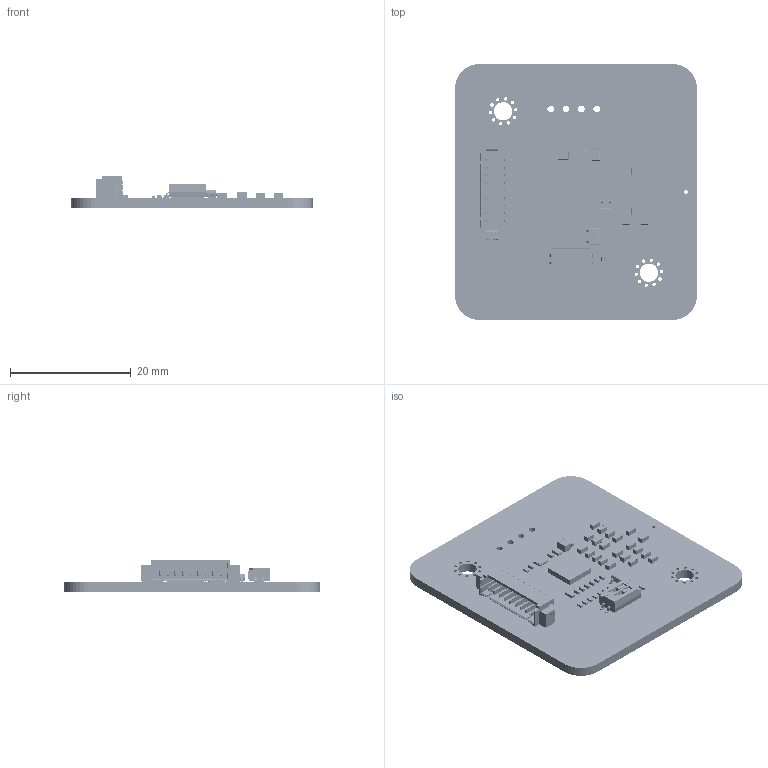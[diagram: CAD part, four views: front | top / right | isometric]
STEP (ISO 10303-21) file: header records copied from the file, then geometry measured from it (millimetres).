
FILE_DESCRIPTION(('Designed by EasyEDA Pro'),'2;1');
FILE_NAME('Open CASCADE Shape Model','2025-12-28T17:03:29',('Author'),( 'Open CASCADE'),'Open CASCADE STEP processor 7.8','Open CASCADE 7.8' ,'Unknown');
FILE_SCHEMA(('AUTOMOTIVE_DESIGN { 1 0 10303 214 1 1 1 1 }'));
Length unit declared in the file: millimetre
Products named in the file (66): EasyEDA PCB Model~bnXr; Board~bnXr; TopCopper~bnXr; BottomCopper~bnXr; TopSilkscreen~bnXr; BottomSilkscreen~bnXr; TopFpcStiffener~bnXr; BottomFpcStiffener~bnXr; CRYSTAL-SMD_4P-L2.0-W1.6-BL-2~CRYSTAL-SMD_4P-L2.0-W1.6-BL-2~4uQZ; X1~CRYSTAL-SMD_4P-L2.0-W1.6-BL-2~CRYSTAL-SMD_4P-L2.0-W1.6-BL-2~lTN0; R0402~R0402_L1.0-W0.5-H0.4~epE0; R1~R0402~R0402_L1.0-W0.5-H0.4~zVkF; R22~R0402~R0402_L1.0-W0.5-H0.4~ZQzv; R29~R0402~R0402_L1.0-W0.5-H0.4~ltes; R30~R0402~R0402_L1.0-W0.5-H0.4~p2vC; R31~R0402~R0402_L1.0-W0.5-H0.4~oG87; R32~R0402~R0402_L1.0-W0.5-H0.4~yNXj; R35~R0402~R0402_L1.0-W0.5-H0.4~uFQG; R36~R0402~R0402_L1.0-W0.5-H0.4~OzeX; R37~R0402~R0402_L1.0-W0.5-H0.4~WPXc; SW-SMD_TDA02H0SB1R~SW-SMD_TDA02H0SB1R~CeVE; U2~SW-SMD_TDA02H0SB1R~SW-SMD_TDA02H0SB1R~in4x; C0603~C0603_L1.6-W0.8-H0.8~YhWD; C11~C0603~C0603_L1.6-W0.8-H0.8~anrH; C12~C0603~C0603_L1.6-W0.8-H0.8~lMjy; C13~C0603~C0603_L1.6-W0.8-H0.8~ckdi; C14~C0603~C0603_L1.6-W0.8-H0.8~3wUj; C15~C0603~C0603_L1.6-W0.8-H0.8~GFrp; C16~C0603~C0603_L1.6-W0.8-H0.8~w0EJ; C17~C0603~C0603_L1.6-W0.8-H0.8~6N1e; C18~C0603~C0603_L1.6-W0.8-H0.8~P9ru; C19~C0603~C0603_L1.6-W0.8-H0.8~B0Ac; C20~C0603~C0603_L1.6-W0.8-H0.8~688g; C21~C0603~C0603_L1.6-W0.8-H0.8~knpl; C22~C0603~C0603_L1.6-W0.8-H0.8~NKmr; C23~C0603~C0603_L1.6-W0.8-H0.8~A9XY; R6~R0603~C0603_L1.6-W0.8-H0.8~c2Q2; R7~R0603~C0603_L1.6-W0.8-H0.8~ZmlL; R8~R0603~C0603_L1.6-W0.8-H0.8~XkPv; R9~R0603~C0603_L1.6-W0.8-H0.8~1N5f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
Assembly tree (101 placements, depth 3):
  EasyEDA PCB Model~bnXr
    Board~bnXr
    TopCopper~bnXr
    BottomCopper~bnXr
    TopSilkscreen~bnXr
    BottomSilkscreen~bnXr
    TopFpcStiffener~bnXr
    BottomFpcStiffener~bnXr
    X1~CRYSTAL-SMD_4P-L2.0-W1.6-BL-2~CRYSTAL-SMD_4P-L2.0-W1.6-BL-2~lTN0
      CRYSTAL-SMD_4P-L2.0-W1.6-BL-2~CRYSTAL-SMD_4P-L2.0-W1.6-BL-2~4uQZ
    R1~R0402~R0402_L1.0-W0.5-H0.4~zVkF
      R0402~R0402_L1.0-W0.5-H0.4~epE0
    R22~R0402~R0402_L1.0-W0.5-H0.4~ZQzv
      R0402~R0402_L1.0-W0.5-H0.4~epE0
    R29~R0402~R0402_L1.0-W0.5-H0.4~ltes
      R0402~R0402_L1.0-W0.5-H0.4~epE0
    R30~R0402~R0402_L1.0-W0.5-H0.4~p2vC
      R0402~R0402_L1.0-W0.5-H0.4~epE0
    R31~R0402~R0402_L1.0-W0.5-H0.4~oG87
      R0402~R0402_L1.0-W0.5-H0.4~epE0
    R32~R0402~R0402_L1.0-W0.5-H0.4~yNXj
      R0402~R0402_L1.0-W0.5-H0.4~epE0
    R35~R0402~R0402_L1.0-W0.5-H0.4~uFQG
      R0402~R0402_L1.0-W0.5-H0.4~epE0
    R36~R0402~R0402_L1.0-W0.5-H0.4~OzeX
      R0402~R0402_L1.0-W0.5-H0.4~epE0
    R37~R0402~R0402_L1.0-W0.5-H0.4~WPXc
      R0402~R0402_L1.0-W0.5-H0.4~epE0
    U2~SW-SMD_TDA02H0SB1R~SW-SMD_TDA02H0SB1R~in4x
      SW-SMD_TDA02H0SB1R~SW-SMD_TDA02H0SB1R~CeVE
    C11~C0603~C0603_L1.6-W0.8-H0.8~anrH
      C0603~C0603_L1.6-W0.8-H0.8~YhWD
    C12~C0603~C0603_L1.6-W0.8-H0.8~lMjy
      C0603~C0603_L1.6-W0.8-H0.8~YhWD
    C13~C0603~C0603_L1.6-W0.8-H0.8~ckdi
      C0603~C0603_L1.6-W0.8-H0.8~YhWD
    C14~C0603~C0603_L1.6-W0.8-H0.8~3wUj
      C0603~C0603_L1.6-W0.8-H0.8~YhWD
    C15~C0603~C0603_L1.6-W0.8-H0.8~GFrp
      C0603~C0603_L1.6-W0.8-H0.8~YhWD
    C16~C0603~C0603_L1.6-W0.8-H0.8~w0EJ
      C0603~C0603_L1.6-W0.8-H0.8~YhWD
    C17~C0603~C0603_L1.6-W0.8-H0.8~6N1e
      C0603~C0603_L1.6-W0.8-H0.8~YhWD
    C18~C0603~C0603_L1.6-W0.8-H0.8~P9ru
      C0603~C0603_L1.6-W0.8-H0.8~YhWD
    C19~C0603~C0603_L1.6-W0.8-H0.8~B0Ac
      C0603~C0603_L1.6-W0.8-H0.8~YhWD
    C20~C0603~C0603_L1.6-W0.8-H0.8~688g
      C0603~C0603_L1.6-W0.8-H0.8~YhWD
    C21~C0603~C0603_L1.6-W0.8-H0.8~knpl
      C0603~C0603_L1.6-W0.8-H0.8~YhWD
    C22~C0603~C0603_L1.6-W0.8-H0.8~NKmr
      C0603~C0603_L1.6-W0.8-H0.8~YhWD
    C23~C0603~C0603_L1.6-W0.8-H0.8~A9XY
      C0603~C0603_L1.6-W0.8-H0.8~YhWD
    R6~R0603~C0603_L1.6-W0.8-H0.8~c2Q2
      C0603~C0603_L1.6-W0.8-H0.8~YhWD
    R7~R0603~C0603_L1.6-W0.8-H0.8~ZmlL
      C0603~C0603_L1.6-W0.8-H0.8~YhWD
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Bounding box: 39.99 x 42.34 x 5.19 mm (x, y, z)
Volume: 2855.5 mm3; surface area: 4835.8 mm2
Topology: 88 solids, 383 shells, 17312 faces, 67904 edges, 51961 vertices
Faces by surface type: plane 10200, bspline 5161, cylinder 1602, sphere 289, torus 60
Entity records: 396557 total; most frequent: CARTESIAN_POINT 100595, ORIENTED_EDGE 47254, DIRECTION 41842, EDGE_CURVE 34694, LINE 30482, VECTOR 30482, VERTEX_POINT 30325, AXIS2_PLACEMENT_3D 5680
